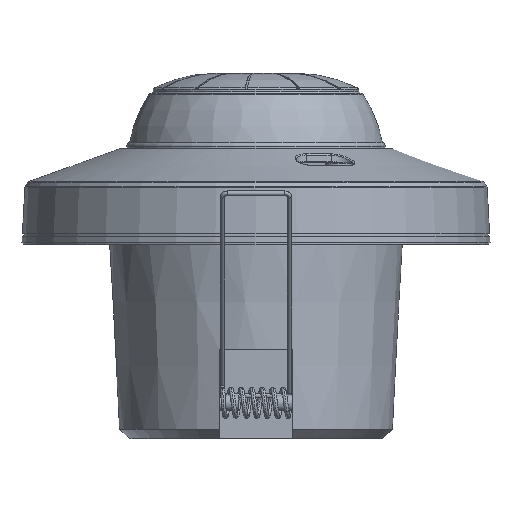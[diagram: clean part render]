
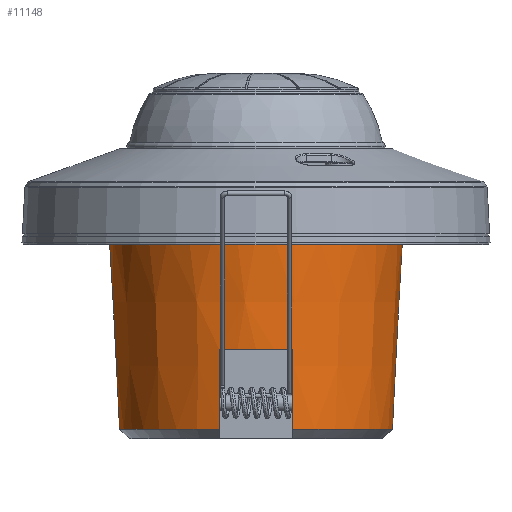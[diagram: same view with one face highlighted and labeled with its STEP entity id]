
A CAD part, front view. The second image highlights one B-rep face of the part: STEP entity #11148.
In plain terms, the highlighted conical face has half-angle 3 degrees and reference radius 30.75 mm.
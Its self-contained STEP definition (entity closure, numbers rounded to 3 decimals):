
#152 = AXIS2_PLACEMENT_3D ( 'NONE', #9999, #9916, #1507 ) ;
#270 = AXIS2_PLACEMENT_3D ( 'NONE', #2496, #7452, #14614 ) ;
#319 = DIRECTION ( 'NONE',  ( 1., 0., 0. ) ) ;
#326 = CIRCLE ( 'NONE', #11257, 30.75 ) ;
#475 = B_SPLINE_CURVE_WITH_KNOTS ( 'NONE', 3,
 ( #12633, #4277, #10224, #5170 ),
 .UNSPECIFIED., .F., .F.,
 ( 4, 4 ),
 ( 0.023, 0.041 ),
 .UNSPECIFIED. ) ;
#522 = EDGE_CURVE ( 'NONE', #14345, #13078, #13732, .T. ) ;
#685 = CARTESIAN_POINT ( 'NONE',  ( -8.25, -30.597, 25. ) ) ;
#756 = CARTESIAN_POINT ( 'NONE',  ( -8.25, -29.623, 42.929 ) ) ;
#863 = DIRECTION ( 'NONE',  ( 0., 0., 1. ) ) ;
#997 = FACE_BOUND ( 'NONE', #8624, .T. ) ;
#998 = ORIENTED_EDGE ( 'NONE', *, *, #10714, .F. ) ;
#1067 = CARTESIAN_POINT ( 'NONE',  ( 8.25, -29.623, 42.929 ) ) ;
#1288 = CARTESIAN_POINT ( 'NONE',  ( -8.25, 29.623, 42.929 ) ) ;
#1507 = DIRECTION ( 'NONE',  ( 1., 0., 0. ) ) ;
#1910 = CARTESIAN_POINT ( 'NONE',  ( -8.064, -32., 0. ) ) ;
#2013 = VERTEX_POINT ( 'NONE', #11111 ) ;
#2131 = DIRECTION ( 'NONE',  ( -1., 0., 0. ) ) ;
#2142 = CARTESIAN_POINT ( 'NONE',  ( 8.25, -29.623, 42.929 ) ) ;
#2169 = CARTESIAN_POINT ( 'NONE',  ( -8.25, -30.597, 25. ) ) ;
#2496 = CARTESIAN_POINT ( 'NONE',  ( 0., 0., 0. ) ) ;
#2516 = B_SPLINE_CURVE_WITH_KNOTS ( 'NONE', 3,
 ( #756, #12932, #5628, #685 ),
 .UNSPECIFIED., .F., .F.,
 ( 4, 4 ),
 ( 0.023, 0.041 ),
 .UNSPECIFIED. ) ;
#2589 = EDGE_LOOP ( 'NONE', ( #6784, #3691, #9302, #3705 ) ) ;
#2696 = CARTESIAN_POINT ( 'NONE',  ( -4.102, 32.744, 0. ) ) ;
#2730 = CARTESIAN_POINT ( 'NONE',  ( 8.25, -30.597, 25. ) ) ;
#3148 = DIRECTION ( 'NONE',  ( 0., 0., -1. ) ) ;
#3334 = EDGE_CURVE ( 'NONE', #7110, #14072, #10525, .T. ) ;
#3455 = CARTESIAN_POINT ( 'NONE',  ( 8.25, -30.273, 30.976 ) ) ;
#3615 = CARTESIAN_POINT ( 'NONE',  ( 8.197, 31.966, 0. ) ) ;
#3691 = ORIENTED_EDGE ( 'NONE', *, *, #4550, .T. ) ;
#3705 = ORIENTED_EDGE ( 'NONE', *, *, #11236, .T. ) ;
#3861 = CIRCLE ( 'NONE', #10685, 33. ) ;
#3900 = DIRECTION ( 'NONE',  ( 1., 0., 0. ) ) ;
#4277 = CARTESIAN_POINT ( 'NONE',  ( 8.25, 29.948, 36.953 ) ) ;
#4550 = EDGE_CURVE ( 'NONE', #4610, #7012, #6501, .T. ) ;
#4572 = CARTESIAN_POINT ( 'NONE',  ( 8.25, -30.597, 25. ) ) ;
#4610 = VERTEX_POINT ( 'NONE', #2696 ) ;
#4688 = ORIENTED_EDGE ( 'NONE', *, *, #522, .T. ) ;
#4706 = AXIS2_PLACEMENT_3D ( 'NONE', #6210, #5014, #3900 ) ;
#4873 = CARTESIAN_POINT ( 'NONE',  ( -8.25, 30.273, 30.976 ) ) ;
#5014 = DIRECTION ( 'NONE',  ( 0., 0., 1. ) ) ;
#5160 = CIRCLE ( 'NONE', #14034, 31.69 ) ;
#5170 = CARTESIAN_POINT ( 'NONE',  ( 8.25, 30.597, 25. ) ) ;
#5185 = DIRECTION ( 'NONE',  ( 0., 0., 1. ) ) ;
#5403 = EDGE_CURVE ( 'NONE', #14345, #7110, #14137, .T. ) ;
#5610 = CIRCLE ( 'NONE', #7642, 33. ) ;
#5628 = CARTESIAN_POINT ( 'NONE',  ( -8.25, -30.273, 30.976 ) ) ;
#5774 = EDGE_CURVE ( 'NONE', #14702, #7769, #10120, .T. ) ;
#6066 = CARTESIAN_POINT ( 'NONE',  ( -8.25, 29.948, 36.953 ) ) ;
#6168 = ORIENTED_EDGE ( 'NONE', *, *, #11201, .F. ) ;
#6210 = CARTESIAN_POINT ( 'NONE',  ( 0., 0., 42.929 ) ) ;
#6388 = DIRECTION ( 'NONE',  ( -1., 0., 0. ) ) ;
#6501 = CIRCLE ( 'NONE', #152, 33. ) ;
#6659 = CARTESIAN_POINT ( 'NONE',  ( -8.25, -29.623, 42.929 ) ) ;
#6784 = ORIENTED_EDGE ( 'NONE', *, *, #9337, .T. ) ;
#6867 = AXIS2_PLACEMENT_3D ( 'NONE', #8802, #14969, #319 ) ;
#6987 = CARTESIAN_POINT ( 'NONE',  ( 0., 0., 42.929 ) ) ;
#7012 = VERTEX_POINT ( 'NONE', #1910 ) ;
#7110 = VERTEX_POINT ( 'NONE', #2142 ) ;
#7114 = AXIS2_PLACEMENT_3D ( 'NONE', #14053, #3148, #11587 ) ;
#7452 = DIRECTION ( 'NONE',  ( 0., 0., 1. ) ) ;
#7642 = AXIS2_PLACEMENT_3D ( 'NONE', #12436, #13380, #6388 ) ;
#7769 = VERTEX_POINT ( 'NONE', #8497 ) ;
#8244 = DIRECTION ( 'NONE',  ( 1., 0., 0. ) ) ;
#8295 = CARTESIAN_POINT ( 'NONE',  ( 8.25, -29.948, 36.953 ) ) ;
#8497 = CARTESIAN_POINT ( 'NONE',  ( -8.25, 29.623, 42.929 ) ) ;
#8624 = EDGE_LOOP ( 'NONE', ( #6168, #8687, #12348, #998, #14909, #13738, #14168, #4688 ) ) ;
#8687 = ORIENTED_EDGE ( 'NONE', *, *, #10737, .F. ) ;
#8802 = CARTESIAN_POINT ( 'NONE',  ( 0., 0., 25. ) ) ;
#9302 = ORIENTED_EDGE ( 'NONE', *, *, #12257, .F. ) ;
#9337 = EDGE_CURVE ( 'NONE', #14885, #4610, #3861, .T. ) ;
#9716 = CARTESIAN_POINT ( 'NONE',  ( -8.25, 30.597, 25. ) ) ;
#9916 = DIRECTION ( 'NONE',  ( 0., 0., 1. ) ) ;
#9999 = CARTESIAN_POINT ( 'NONE',  ( 0., 0., 0. ) ) ;
#10120 = B_SPLINE_CURVE_WITH_KNOTS ( 'NONE', 3,
 ( #12512, #4873, #6066, #1288 ),
 .UNSPECIFIED., .F., .F.,
 ( 4, 4 ),
 ( 0.023, 0.041 ),
 .UNSPECIFIED. ) ;
#10166 = CARTESIAN_POINT ( 'NONE',  ( 0., 0., 0. ) ) ;
#10224 = CARTESIAN_POINT ( 'NONE',  ( 8.25, 30.273, 30.976 ) ) ;
#10475 = DIRECTION ( 'NONE',  ( 0., 0., 1. ) ) ;
#10525 = CIRCLE ( 'NONE', #4706, 30.75 ) ;
#10633 = CARTESIAN_POINT ( 'NONE',  ( 0., 0., 25. ) ) ;
#10667 = CIRCLE ( 'NONE', #270, 33. ) ;
#10685 = AXIS2_PLACEMENT_3D ( 'NONE', #10166, #5185, #13836 ) ;
#10714 = EDGE_CURVE ( 'NONE', #14700, #14702, #5160, .T. ) ;
#10737 = EDGE_CURVE ( 'NONE', #7769, #10953, #326, .T. ) ;
#10953 = VERTEX_POINT ( 'NONE', #6659 ) ;
#11021 = EDGE_CURVE ( 'NONE', #14072, #14700, #475, .T. ) ;
#11111 = CARTESIAN_POINT ( 'NONE',  ( 4.242, -32.726, 0. ) ) ;
#11148 = ADVANCED_FACE ( 'NONE', ( #997, #14295 ), #15267, .T. ) ;
#11201 = EDGE_CURVE ( 'NONE', #10953, #13078, #2516, .T. ) ;
#11236 = EDGE_CURVE ( 'NONE', #2013, #14885, #10667, .T. ) ;
#11257 = AXIS2_PLACEMENT_3D ( 'NONE', #6987, #10475, #8244 ) ;
#11587 = DIRECTION ( 'NONE',  ( -1., 0., 0. ) ) ;
#12257 = EDGE_CURVE ( 'NONE', #2013, #7012, #5610, .T. ) ;
#12348 = ORIENTED_EDGE ( 'NONE', *, *, #5774, .F. ) ;
#12436 = CARTESIAN_POINT ( 'NONE',  ( 0., 0., 0. ) ) ;
#12512 = CARTESIAN_POINT ( 'NONE',  ( -8.25, 30.597, 25. ) ) ;
#12633 = CARTESIAN_POINT ( 'NONE',  ( 8.25, 29.623, 42.929 ) ) ;
#12932 = CARTESIAN_POINT ( 'NONE',  ( -8.25, -29.948, 36.953 ) ) ;
#12995 = CARTESIAN_POINT ( 'NONE',  ( 8.25, 29.623, 42.929 ) ) ;
#13078 = VERTEX_POINT ( 'NONE', #2169 ) ;
#13380 = DIRECTION ( 'NONE',  ( 0., 0., -1. ) ) ;
#13732 = CIRCLE ( 'NONE', #6867, 31.69 ) ;
#13738 = ORIENTED_EDGE ( 'NONE', *, *, #3334, .F. ) ;
#13836 = DIRECTION ( 'NONE',  ( 1., 0., 0. ) ) ;
#14034 = AXIS2_PLACEMENT_3D ( 'NONE', #10633, #863, #2131 ) ;
#14053 = CARTESIAN_POINT ( 'NONE',  ( 0., 0., 42.929 ) ) ;
#14072 = VERTEX_POINT ( 'NONE', #12995 ) ;
#14137 = B_SPLINE_CURVE_WITH_KNOTS ( 'NONE', 3,
 ( #4572, #3455, #8295, #1067 ),
 .UNSPECIFIED., .F., .F.,
 ( 4, 4 ),
 ( 0.023, 0.041 ),
 .UNSPECIFIED. ) ;
#14168 = ORIENTED_EDGE ( 'NONE', *, *, #5403, .F. ) ;
#14295 = FACE_OUTER_BOUND ( 'NONE', #2589, .T. ) ;
#14345 = VERTEX_POINT ( 'NONE', #2730 ) ;
#14614 = DIRECTION ( 'NONE',  ( 1., 0., 0. ) ) ;
#14700 = VERTEX_POINT ( 'NONE', #15243 ) ;
#14702 = VERTEX_POINT ( 'NONE', #9716 ) ;
#14885 = VERTEX_POINT ( 'NONE', #3615 ) ;
#14909 = ORIENTED_EDGE ( 'NONE', *, *, #11021, .F. ) ;
#14969 = DIRECTION ( 'NONE',  ( 0., 0., -1. ) ) ;
#15243 = CARTESIAN_POINT ( 'NONE',  ( 8.25, 30.597, 25. ) ) ;
#15267 = CONICAL_SURFACE ( 'NONE', #7114, 30.75, 0.052 ) ;
